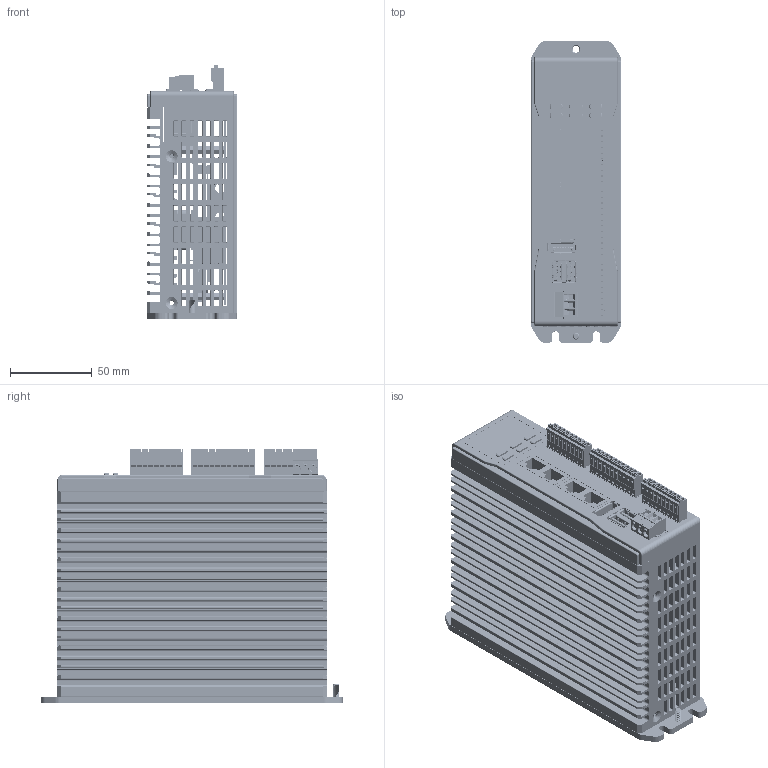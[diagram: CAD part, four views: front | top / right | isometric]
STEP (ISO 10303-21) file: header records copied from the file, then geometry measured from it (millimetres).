
FILE_DESCRIPTION((''),'2;1');
FILE_NAME('LC1000_ASM','2023-08-16T11:44:40',('Lenovo'),(''),'CREO PARAMETRIC BY PTC INC, 2020033','CREO PARAMETRIC BY PTC INC, 2020033','');
FILE_SCHEMA(('CONFIG_CONTROL_DESIGN'));
Products named in the file (38): LC1000-JINGPIAN; LC1000-COVER; MB-PCB; WJ2EDGRRC-508; USB-2; WJ2EDGK-508; DDR4-SODIMM_H5P2-RKEY_A; M_2_KEY-B_H8P5__2280SSD_03_A; BAT-SOCKET; DP; YTW-2PIN; CPU; TS0631-0431B; 3615-SXXX; YTW-CPU; MB-PCB_ASM; IO-PCB; 15EDGRC-3-5-9PIN; 15EDGRC-3-5-11PIN; CBT-0810XXF-52-14PIN; 3615-PXXX; IO-PCB_ASM; LC1000-SRQ; XIANSHI-PCB; XIANSHIPIN; SKQGABE010; CBT-0810XXM-52-14PIN; LC1000-XIANSHIBAN_ASM; M3X10-6-TZ; M3X17-6-TZ; M3X26-6-TZ; LC1000-DIBAN; FH-M4-12; LC1000-DIBAN_ASM; LC1000-ANJIAN02; WJ15EDGKN-3R5-XXP-11PIN; WJ15EDGKN-3R5-XXP-9PIN; LC1000_ASM
Assembly tree (55 placements, depth 3):
  LC1000_ASM
    LC1000-JINGPIAN
    LC1000-COVER
    MB-PCB_ASM
      MB-PCB
      WJ2EDGRRC-508
      USB-2  x2
      WJ2EDGK-508
      DDR4-SODIMM_H5P2-RKEY_A
      M_2_KEY-B_H8P5__2280SSD_03_A
      BAT-SOCKET
      DP
      YTW-2PIN  x2
      CPU
      TS0631-0431B
      3615-SXXX
      YTW-CPU  x4
    IO-PCB_ASM
      IO-PCB
      15EDGRC-3-5-9PIN  x2
      15EDGRC-3-5-11PIN
      CBT-0810XXF-52-14PIN
      3615-PXXX
    LC1000-SRQ
    LC1000-XIANSHIBAN_ASM
      XIANSHI-PCB
      XIANSHIPIN
      SKQGABE010  x6
      CBT-0810XXM-52-14PIN
    M3X10-6-TZ  x4
    M3X17-6-TZ  x4
    M3X26-6-TZ
    LC1000-DIBAN_ASM
      LC1000-DIBAN
      FH-M4-12
    LC1000-ANJIAN02
    WJ15EDGKN-3R5-XXP-11PIN
    WJ15EDGKN-3R5-XXP-9PIN  x2
Bounding box: 55 x 185 x 156.2 mm (x, y, z)
Volume: 482788.3 mm3; surface area: 383478.9 mm2
Topology: 61 solids, 74 shells, 14906 faces, 40533 edges, 26456 vertices
Faces by surface type: plane 10210, cylinder 3427, cone 628, bspline 462, extrusion 75, torus 73, sphere 27, revolution 4
Entity records: 377034 total; most frequent: CARTESIAN_POINT 90209, ORIENTED_EDGE 61226, DIRECTION 56450, EDGE_CURVE 30613, VECTOR 23452, LINE 23409, VERTEX_POINT 20025, AXIS2_PLACEMENT_3D 16498
